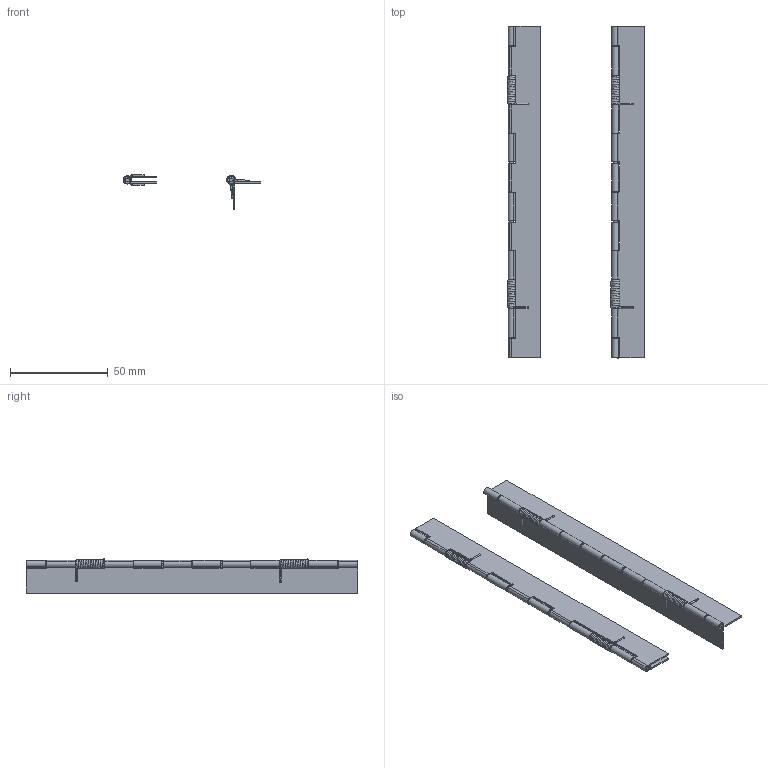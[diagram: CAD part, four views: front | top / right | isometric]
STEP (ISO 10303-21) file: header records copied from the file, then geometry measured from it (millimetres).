
FILE_DESCRIPTION((''),'2;1');
FILE_NAME('6067.01-02.stp','2015-07-16T14:43:14',(''),(''),'Mechanical Desktop 2006','Mechanical Desktop 2006',', , ');
FILE_SCHEMA(('CONFIG_CONTROL_DESIGN'));
Length unit declared in the file: millimetre
Products named in the file (10): 6067; TEIL1; TEIL3; DREHFEDERN - 0.800000 X 4.200000 X 16.000000; ~DREHFEDERN - 0.800000 X 4.200000 X 16.000000; TEIL4; ~DREHFEDERN - 0.800000 X 4.600000 X 16.000000; ~TEIL4; ~TEIL1; ~TEIL3
Assembly tree (10 placements, depth 2):
  6067
    TEIL1
    TEIL3
    DREHFEDERN - 0.800000 X 4.200000 X 16.000000
    ~DREHFEDERN - 0.800000 X 4.200000 X 16.000000  x2
    TEIL4
    ~DREHFEDERN - 0.800000 X 4.600000 X 16.000000
    ~TEIL4
    ~TEIL1
    ~TEIL3
Bounding box: 70.24 x 170 x 17.64 mm (x, y, z)
Volume: 10544.4 mm3; surface area: 28294.9 mm2
Topology: 10 solids, 10 shells, 278 faces, 748 edges, 492 vertices
Faces by surface type: bspline 122, cylinder 84, plane 60, torus 12
Entity records: 33092 total; most frequent: CARTESIAN_POINT 26430, ORIENTED_EDGE 1416, DIRECTION 1300, EDGE_CURVE 708, VERTEX_POINT 466, AXIS2_PLACEMENT_3D 448, VECTOR 404, LINE 404
